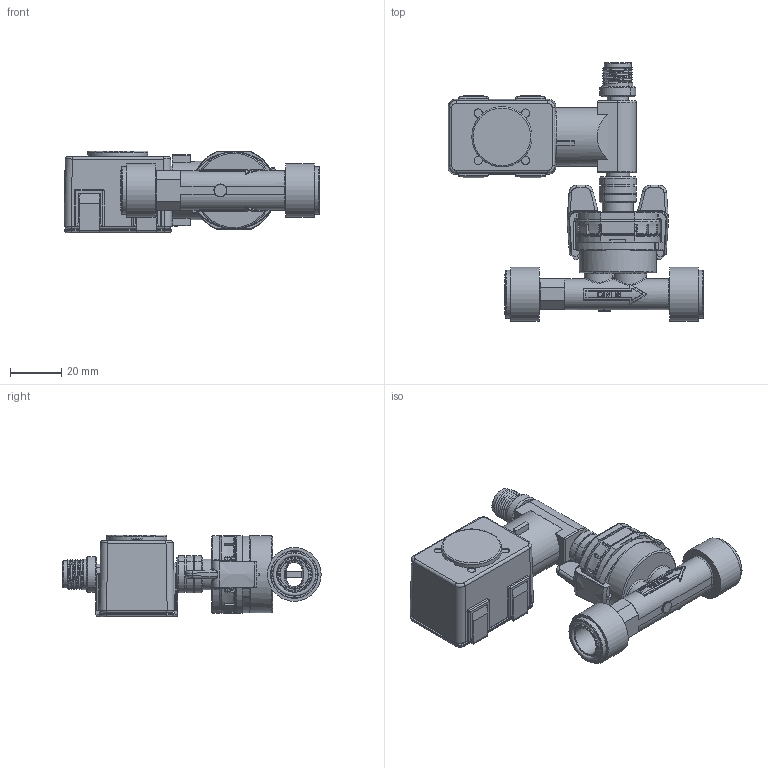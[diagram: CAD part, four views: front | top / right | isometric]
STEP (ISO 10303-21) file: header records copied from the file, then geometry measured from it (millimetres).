
FILE_DESCRIPTION(/* description */ (''),/* implementation_level */ '2;1');
FILE_NAME(/* name */ '212_x08xxxxxK.stp',/* time_stamp */ '2019-02-04T07:54:43+01:00',/* author */ (''),/* organization */ (''),/* preprocessor_version */ 'ST-DEVELOPER v16.7',/* originating_system */ 'SIEMENS PLM Software NX 12.0',/* authorisation */ '');
FILE_SCHEMA (('AUTOMOTIVE_DESIGN { 1 0 10303 214 3 1 1 1 }'));
Products named in the file (1): model1
Bounding box: 99.77 x 100.71 x 31.88 mm (x, y, z)
Volume: 81896.4 mm3; surface area: 42170.6 mm2
Topology: 10 solids, 16 shells, 1683 faces, 4446 edges, 2791 vertices
Faces by surface type: plane 623, cylinder 480, extrusion 155, torus 143, bspline 124, cone 118, sphere 40
Full cylindrical faces by diameter (mm): 1 x5, 3.234 x4, 4.85 x1, 5.76 x2, 7.98 x4, 8.15 x2, 10 x1, 10.4 x1, 10.6 x1, 11.5 x2, 12 x1, 12.85 x2, 15.17 x1, 15.4 x1, 16.093 x1, 16.75 x2, 18.6 x2, 19.707 x1, 20.955 x2, 23.426 x1, 30 x1
Entity records: 72881 total; most frequent: CARTESIAN_POINT 22638, ORIENTED_EDGE 8490, DIRECTION 7678, EDGE_CURVE 4245, AXIS2_PLACEMENT_3D 2864, VERTEX_POINT 2734, VECTOR 1950, EDGE_LOOP 1881
